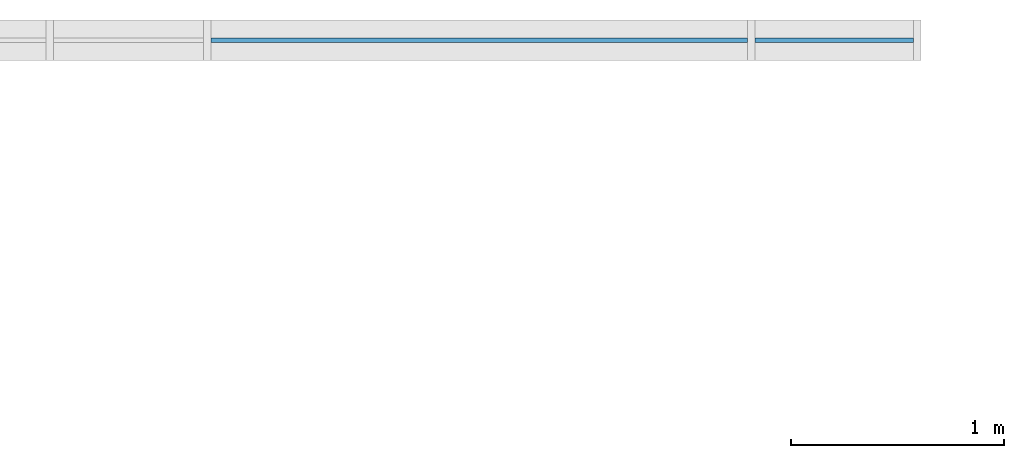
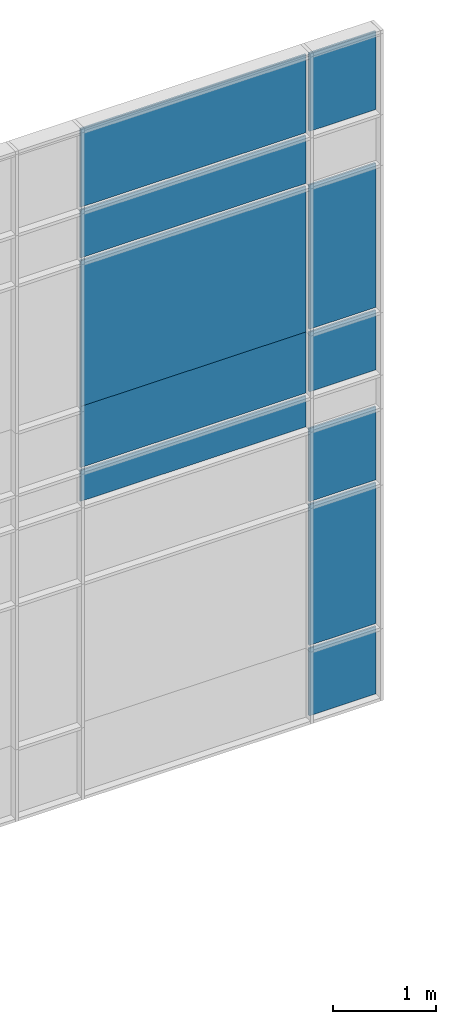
# One storey, part 37 of 73: 11 plates, 1 element without a shape of its own.
"""IFC2X3 building model written with IfcOpenShell, lengths in millimetres."""

from ifc_helpers import new_model, entity, si_unit, converted_unit, derived_unit, direction, frame, origin, origin_2d_with_axis, place, context, subcontext, project, spatial, rectangle, extrude, source, transform, mapped, material, layer, layer_set, layer_usage, type_object, type_shapes, element, aggregate, save


model = new_model("IFC2X3")

# Units and contexts
model_context = context("Model", 3, precision=0.01, world=origin(), true_north=direction((6.12303176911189e-17, 1.0)))
body_context = subcontext(model_context, "Body", "Model", "MODEL_VIEW")
ifc_project = project(units=[si_unit("LENGTHUNIT", "METRE", prefix="MILLI"), si_unit("AREAUNIT", "SQUARE_METRE"), si_unit("VOLUMEUNIT", "CUBIC_METRE"), converted_unit("PLANEANGLEUNIT", "DEGREE", entity("IfcRatioMeasure", 0.0174532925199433), si_unit("PLANEANGLEUNIT", "RADIAN"), dimensions=[0, 0, 0, 0, 0, 0, 0]), si_unit("MASSUNIT", "GRAM", prefix="KILO"), derived_unit("MASSDENSITYUNIT", [(si_unit("MASSUNIT", "GRAM", prefix="KILO"), 1), (si_unit("LENGTHUNIT", "METRE"), -3)]), si_unit("TIMEUNIT", "SECOND"), si_unit("FREQUENCYUNIT", "HERTZ"), si_unit("THERMODYNAMICTEMPERATUREUNIT", "DEGREE_CELSIUS"), derived_unit("THERMALTRANSMITTANCEUNIT", [(si_unit("MASSUNIT", "GRAM", prefix="KILO"), 1), (si_unit("THERMODYNAMICTEMPERATUREUNIT", "KELVIN"), -1), (si_unit("TIMEUNIT", "SECOND"), -3)]), derived_unit("VOLUMETRICFLOWRATEUNIT", [(si_unit("LENGTHUNIT", "METRE"), 3), (si_unit("TIMEUNIT", "SECOND"), -1)]), si_unit("ELECTRICCURRENTUNIT", "AMPERE"), si_unit("ELECTRICVOLTAGEUNIT", "VOLT"), si_unit("POWERUNIT", "WATT"), si_unit("FORCEUNIT", "NEWTON", prefix="KILO"), si_unit("ILLUMINANCEUNIT", "LUX"), si_unit("LUMINOUSFLUXUNIT", "LUMEN"), si_unit("LUMINOUSINTENSITYUNIT", "CANDELA"), derived_unit("USERDEFINED", [(si_unit("MASSUNIT", "GRAM", prefix="KILO"), -1), (si_unit("LENGTHUNIT", "METRE"), -2), (si_unit("TIMEUNIT", "SECOND"), 3), (si_unit("LUMINOUSFLUXUNIT", "LUMEN"), 1)]), derived_unit("LINEARVELOCITYUNIT", [(si_unit("LENGTHUNIT", "METRE"), 1), (si_unit("TIMEUNIT", "SECOND"), -1)]), si_unit("PRESSUREUNIT", "PASCAL"), derived_unit("USERDEFINED", [(si_unit("LENGTHUNIT", "METRE"), -2), (si_unit("MASSUNIT", "GRAM", prefix="KILO"), 1), (si_unit("TIMEUNIT", "SECOND"), -2)])], contexts=[model_context])

# Site, building, storey
site_placement = place(None, frame((-151.875543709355, 2715.0, 0.0)))
site = spatial("IfcSite", under=ifc_project, at=site_placement, Name="Surface", CompositionType="ELEMENT")
building_placement = place(site_placement, origin())
building = spatial("IfcBuilding", under=site, at=building_placement, CompositionType="ELEMENT")
storey_placement = place(building_placement, frame((0.0, 0.0, 6730.43000000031)))
storey = spatial("IfcBuildingStorey", under=building, at=storey_placement, Name="3 korrus", CompositionType="ELEMENT", Elevation=6730.43000000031)

# Curtain wall, plates
curtain_wall_type = type_object("IfcCurtainWallType", Name="Curtain Wall:Klaasfassaad2", PredefinedType="NOTDEFINED")
curtain_wall_placement = place(storey_placement, frame((0.0, 0.0, -6730.43000000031)))
curtain_wall = element("IfcCurtainWall", 1, at=curtain_wall_placement, inside=storey, type_object=curtain_wall_type, Name="Curtain Wall:Klaasfassaad2", ObjectType="Curtain Wall:Klaasfassaad2")
ifc_material = material(Name="<Unnamed>")
ifc_layer = layer(ifc_material, 20.0)
ifc_layer_set = layer_set([ifc_layer], Name="Curtain Wall:Klaassein KLS-01")
ifc_layer_usage_1 = layer_usage(ifc_layer_set, "AXIS3", "POSITIVE", 0.0)
plate_type_1 = type_object("IfcPlateType", Name="Glazed", PredefinedType="CURTAIN_PANEL", material=ifc_layer_set)
shared_shape_1 = source(origin(), body_context, "Body", "SweptSolid", [
    extrude(rectangle(XDim=20.0, YDim=747.49999999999, at=origin_2d_with_axis()), frame((0.0, 0.0, 0.0), z_axis=(0.0, 0.0, 1.0), x_axis=(0.0, 1.0, 0.0)), (0.0, 0.0, 1.0), 797.659729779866),
])
type_shapes(plate_type_1, [shared_shape_1])
plate_1_placement = place(curtain_wall_placement, frame((37997.8662682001, 26624.0, 3909.42773967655), z_axis=(0.0, 0.0, 1.0), x_axis=(-1.0, 0.0, 0.0)))
plate_1 = element("IfcPlate", 2, at=plate_1_placement, type_object=plate_type_1, material=ifc_layer_usage_1, Name="System Panel:Glazed", ObjectType="Glazed", context=body_context, shape_type="MappedRepresentation", body=[
    mapped(shared_shape_1, transform((0.0, 0.0, 0.0), scale=1.0)),
])
ifc_layer_usage_2 = layer_usage(ifc_layer_set, "AXIS3", "POSITIVE", 0.0)
plate_type_2 = type_object("IfcPlateType", Name="Glazed", PredefinedType="CURTAIN_PANEL", material=ifc_layer_set)
shared_shape_2 = source(origin(), body_context, "Body", "SweptSolid", [
    extrude(rectangle(XDim=20.0, YDim=747.49999999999, at=origin_2d_with_axis()), frame((0.0, 0.0, 0.0), z_axis=(0.0, 0.0, 1.0), x_axis=(0.0, 1.0, 0.0)), (0.0, 0.0, 1.0), 1665.31945955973),
])
type_shapes(plate_type_2, [shared_shape_2])
plate_2_placement = place(curtain_wall_placement, frame((37997.8662682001, 26624.0, 4742.08746945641), z_axis=(0.0, 0.0, 1.0), x_axis=(-1.0, 0.0, 0.0)))
plate_2 = element("IfcPlate", 3, at=plate_2_placement, type_object=plate_type_2, material=ifc_layer_usage_2, Name="System Panel:Glazed", ObjectType="Glazed", context=body_context, shape_type="MappedRepresentation", body=[
    mapped(shared_shape_2, transform((0.0, 0.0, 0.0), scale=1.0)),
])
ifc_layer_usage_3 = layer_usage(ifc_layer_set, "AXIS3", "POSITIVE", 0.0)
plate_type_3 = type_object("IfcPlateType", Name="Glazed", PredefinedType="CURTAIN_PANEL", material=ifc_layer_set)
shared_shape_3 = source(origin(), body_context, "Body", "SweptSolid", [
    extrude(rectangle(XDim=20.0, YDim=747.49999999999, at=origin_2d_with_axis()), frame((0.0, 0.0, 0.0), z_axis=(0.0, 0.0, 1.0), x_axis=(0.0, 1.0, 0.0)), (0.0, 0.0, 1.0), 865.000000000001),
])
type_shapes(plate_type_3, [shared_shape_3])
plate_3_placement = place(curtain_wall_placement, frame((37997.8662682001, 26624.0, 6442.40692901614), z_axis=(0.0, 0.0, 1.0), x_axis=(-1.0, 0.0, 0.0)))
plate_3 = element("IfcPlate", 4, at=plate_3_placement, type_object=plate_type_3, material=ifc_layer_usage_3, Name="System Panel:Glazed", ObjectType="Glazed", context=body_context, shape_type="MappedRepresentation", body=[
    mapped(shared_shape_3, transform((0.0, 0.0, 0.0), scale=1.0)),
])
ifc_layer_usage_4 = layer_usage(ifc_layer_set, "AXIS3", "POSITIVE", 0.0)
plate_type_4 = type_object("IfcPlateType", Name="Glazed", PredefinedType="CURTAIN_PANEL", material=ifc_layer_set)
shared_shape_4 = source(origin(), body_context, "Body", "SweptSolid", [
    extrude(rectangle(XDim=20.0, YDim=2525.00000000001, at=origin_2d_with_axis()), frame((0.0, 0.0, 0.0), z_axis=(0.0, 0.0, 1.0), x_axis=(0.0, 1.0, 0.0)), (0.0, 0.0, 1.0), 365.0),
])
type_shapes(plate_type_4, [shared_shape_4])
plate_4_placement = place(curtain_wall_placement, frame((36326.6162682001, 26624.0, 7342.40692901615), z_axis=(0.0, 0.0, 1.0), x_axis=(-1.0, 0.0, 0.0)))
plate_4 = element("IfcPlate", 5, at=plate_4_placement, type_object=plate_type_4, material=ifc_layer_usage_4, Name="System Panel:Glazed", ObjectType="Glazed", context=body_context, shape_type="MappedRepresentation", body=[
    mapped(shared_shape_4, transform((0.0, 0.0, 0.0), scale=1.0)),
])
ifc_layer_usage_5 = layer_usage(ifc_layer_set, "AXIS3", "POSITIVE", 0.0)
plate_type_5 = type_object("IfcPlateType", Name="Glazed", PredefinedType="CURTAIN_PANEL", material=ifc_layer_set)
shared_shape_5 = source(origin(), body_context, "Body", "SweptSolid", [
    extrude(rectangle(XDim=20.0, YDim=747.49999999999, at=origin_2d_with_axis()), frame((0.0, 0.0, 0.0), z_axis=(0.0, 0.0, 1.0), x_axis=(0.0, 1.0, 0.0)), (0.0, 0.0, 1.0), 705.000000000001),
])
type_shapes(plate_type_5, [shared_shape_5])
plate_5_placement = place(curtain_wall_placement, frame((37997.8662682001, 26624.0, 7742.40692901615), z_axis=(0.0, 0.0, 1.0), x_axis=(-1.0, 0.0, 0.0)))
plate_5 = element("IfcPlate", 6, at=plate_5_placement, type_object=plate_type_5, material=ifc_layer_usage_5, Name="System Panel:Glazed", ObjectType="Glazed", context=body_context, shape_type="MappedRepresentation", body=[
    mapped(shared_shape_5, transform((0.0, 0.0, 0.0), scale=1.0)),
])
ifc_layer_usage_6 = layer_usage(ifc_layer_set, "AXIS3", "POSITIVE", 0.0)
plate_type_6 = type_object("IfcPlateType", Name="Glazed", PredefinedType="CURTAIN_PANEL", material=ifc_layer_set)
shared_shape_6 = source(origin(), body_context, "Body", "SweptSolid", [
    extrude(rectangle(XDim=20.0, YDim=2525.00000000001, at=origin_2d_with_axis()), frame((0.0, 0.0, 0.0), z_axis=(0.0, 0.0, 1.0), x_axis=(0.0, 1.0, 0.0)), (0.0, 0.0, 1.0), 722.500000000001),
])
type_shapes(plate_type_6, [shared_shape_6])
plate_6_placement = place(curtain_wall_placement, frame((36326.6162682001, 26624.0, 7742.40692901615), z_axis=(0.0, 0.0, 1.0), x_axis=(-1.0, 0.0, 0.0)))
plate_6 = element("IfcPlate", 7, at=plate_6_placement, type_object=plate_type_6, material=ifc_layer_usage_6, Name="System Panel:Glazed", ObjectType="Glazed", context=body_context, shape_type="MappedRepresentation", body=[
    mapped(shared_shape_6, transform((0.0, 0.0, 0.0), scale=1.0)),
])
ifc_layer_usage_7 = layer_usage(ifc_layer_set, "AXIS3", "POSITIVE", 0.0)
plate_type_7 = type_object("IfcPlateType", Name="Glazed", PredefinedType="CURTAIN_PANEL", material=ifc_layer_set)
shared_shape_7 = source(origin(), body_context, "Body", "SweptSolid", [
    extrude(rectangle(XDim=20.0, YDim=747.49999999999, at=origin_2d_with_axis()), frame((0.0, 0.0, 0.0), z_axis=(0.0, 0.0, 1.0), x_axis=(0.0, 1.0, 0.0)), (0.0, 0.0, 1.0), 1705.0),
])
type_shapes(plate_type_7, [shared_shape_7])
plate_7_placement = place(curtain_wall_placement, frame((37997.8662682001, 26624.0, 8482.40692901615), z_axis=(0.0, 0.0, 1.0), x_axis=(-1.0, 0.0, 0.0)))
plate_7 = element("IfcPlate", 8, at=plate_7_placement, type_object=plate_type_7, material=ifc_layer_usage_7, Name="System Panel:Glazed", ObjectType="Glazed", context=body_context, shape_type="MappedRepresentation", body=[
    mapped(shared_shape_7, transform((0.0, 0.0, 0.0), scale=1.0)),
])
ifc_layer_usage_8 = layer_usage(ifc_layer_set, "AXIS3", "POSITIVE", 0.0)
plate_type_8 = type_object("IfcPlateType", Name="Glazed", PredefinedType="CURTAIN_PANEL", material=ifc_layer_set)
shared_shape_8 = source(origin(), body_context, "Body", "SweptSolid", [
    extrude(rectangle(XDim=20.0, YDim=2525.00000000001, at=origin_2d_with_axis()), frame((0.0, 0.0, 0.0), z_axis=(0.0, 0.0, 1.0), x_axis=(0.0, 1.0, 0.0)), (0.0, 0.0, 1.0), 1722.5),
])
type_shapes(plate_type_8, [shared_shape_8])
plate_8_placement = place(curtain_wall_placement, frame((36326.6162682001, 26624.0, 8464.90692901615), z_axis=(0.0, 0.0, 1.0), x_axis=(-1.0, 0.0, 0.0)))
plate_8 = element("IfcPlate", 9, at=plate_8_placement, type_object=plate_type_8, material=ifc_layer_usage_8, Name="System Panel:Glazed", ObjectType="Glazed", context=body_context, shape_type="MappedRepresentation", body=[
    mapped(shared_shape_8, transform((0.0, 0.0, 0.0), scale=1.0)),
])
ifc_layer_usage_9 = layer_usage(ifc_layer_set, "AXIS3", "POSITIVE", 0.0)
plate_type_9 = type_object("IfcPlateType", Name="Glazed", PredefinedType="CURTAIN_PANEL", material=ifc_layer_set)
shared_shape_9 = source(origin(), body_context, "Body", "SweptSolid", [
    extrude(rectangle(XDim=20.0, YDim=2525.00000000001, at=origin_2d_with_axis()), frame((0.0, 0.0, 0.0), z_axis=(0.0, 0.0, 1.0), x_axis=(0.0, 1.0, 0.0)), (0.0, 0.0, 1.0), 565.0),
])
type_shapes(plate_type_9, [shared_shape_9])
plate_9_placement = place(curtain_wall_placement, frame((36326.6162682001, 26624.0, 10222.4069290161), z_axis=(0.0, 0.0, 1.0), x_axis=(-1.0, 0.0, 0.0)))
plate_9 = element("IfcPlate", 10, at=plate_9_placement, type_object=plate_type_9, material=ifc_layer_usage_9, Name="System Panel:Glazed", ObjectType="Glazed", context=body_context, shape_type="MappedRepresentation", body=[
    mapped(shared_shape_9, transform((0.0, 0.0, 0.0), scale=1.0)),
])
ifc_layer_usage_10 = layer_usage(ifc_layer_set, "AXIS3", "POSITIVE", 0.0)
plate_type_10 = type_object("IfcPlateType", Name="Glazed", PredefinedType="CURTAIN_PANEL", material=ifc_layer_set)
shared_shape_10 = source(origin(), body_context, "Body", "SweptSolid", [
    extrude(rectangle(XDim=20.0, YDim=747.49999999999, at=origin_2d_with_axis()), frame((0.0, 0.0, 0.0), z_axis=(0.0, 0.0, 1.0), x_axis=(0.0, 1.0, 0.0)), (0.0, 0.0, 1.0), 925.000000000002),
])
type_shapes(plate_type_10, [shared_shape_10])
plate_10_placement = place(curtain_wall_placement, frame((37997.8662682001, 26624.0, 10822.4069290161), z_axis=(0.0, 0.0, 1.0), x_axis=(-1.0, 0.0, 0.0)))
plate_10 = element("IfcPlate", 11, at=plate_10_placement, type_object=plate_type_10, material=ifc_layer_usage_10, Name="System Panel:Glazed", ObjectType="Glazed", context=body_context, shape_type="MappedRepresentation", body=[
    mapped(shared_shape_10, transform((0.0, 0.0, 0.0), scale=1.0)),
])
ifc_layer_usage_11 = layer_usage(ifc_layer_set, "AXIS3", "POSITIVE", 0.0)
plate_type_11 = type_object("IfcPlateType", Name="Glazed", PredefinedType="CURTAIN_PANEL", material=ifc_layer_set)
shared_shape_11 = source(origin(), body_context, "Body", "SweptSolid", [
    extrude(rectangle(XDim=20.0, YDim=2525.00000000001, at=origin_2d_with_axis()), frame((0.0, 0.0, 0.0), z_axis=(0.0, 0.0, 1.0), x_axis=(0.0, 1.0, 0.0)), (0.0, 0.0, 1.0), 925.000000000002),
])
type_shapes(plate_type_11, [shared_shape_11])
plate_11_placement = place(curtain_wall_placement, frame((36326.6162682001, 26624.0, 10822.4069290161), z_axis=(0.0, 0.0, 1.0), x_axis=(-1.0, 0.0, 0.0)))
plate_11 = element("IfcPlate", 12, at=plate_11_placement, type_object=plate_type_11, material=ifc_layer_usage_11, Name="System Panel:Glazed", ObjectType="Glazed", context=body_context, shape_type="MappedRepresentation", body=[
    mapped(shared_shape_11, transform((0.0, 0.0, 0.0), scale=1.0)),
])
aggregate(curtain_wall, [plate_1, plate_2, plate_3, plate_4, plate_5, plate_6, plate_7, plate_8, plate_9, plate_10, plate_11])

save(model, "model.ifc")
